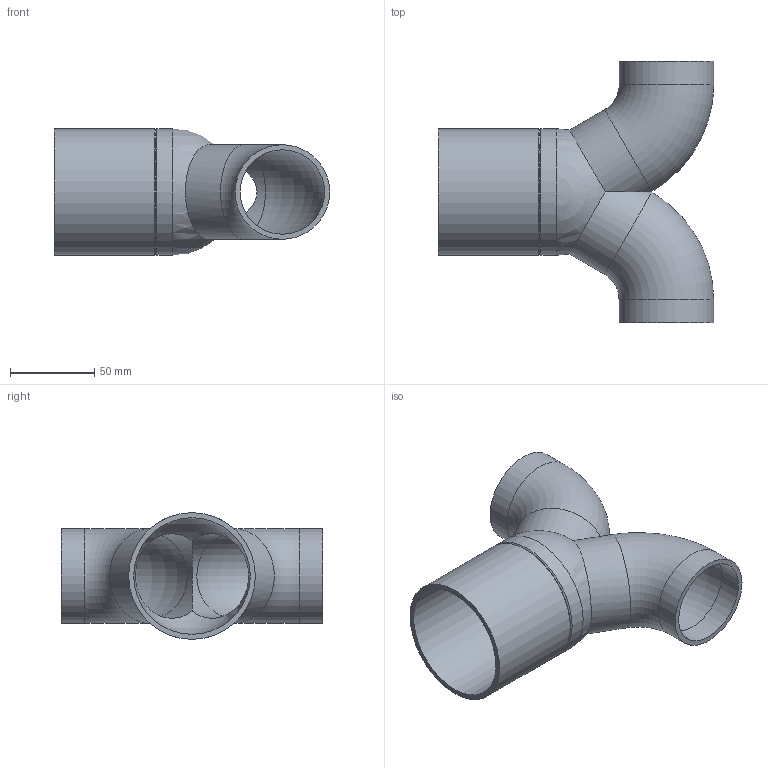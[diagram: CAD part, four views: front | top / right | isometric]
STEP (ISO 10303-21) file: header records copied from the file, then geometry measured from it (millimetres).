
FILE_DESCRIPTION(/* description */ (''),/* implementation_level */ '2;1');
FILE_NAME(/* name */ 'Z:\Geberit\Export\NewStep\365472.stp',/* time_stamp */ '2014-04-02T07:34:19+02:00',/* author */ ('nelson'),/* organization */ (''),/* preprocessor_version */ 'ST-DEVELOPER v15.2',/* originating_system */ 'Autodesk Inventor 2014',/* authorisation */ '');
FILE_SCHEMA (('AUTOMOTIVE_DESIGN { 1 0 10303 214 3 1 1 }'));
Length unit declared in the file: millimetre
Products named in the file (1): 365472
Bounding box: 163 x 155 x 75 mm (x, y, z)
Volume: 139352.8 mm3; surface area: 94781 mm2
Topology: 1 solids, 1 shells, 22 faces, 60 edges, 37 vertices
Faces by surface type: cylinder 11, torus 4, plane 3, cone 2, sphere 2
Full cylindrical faces by diameter (mm): 50 x4, 56 x4, 69 x1, 75 x2
Entity records: 495 total; most frequent: DIRECTION 96, CARTESIAN_POINT 71, ORIENTED_EDGE 50, AXIS2_PLACEMENT_3D 48, EDGE_LOOP 44, FACE_BOUND 26, EDGE_CURVE 25, CIRCLE 23
